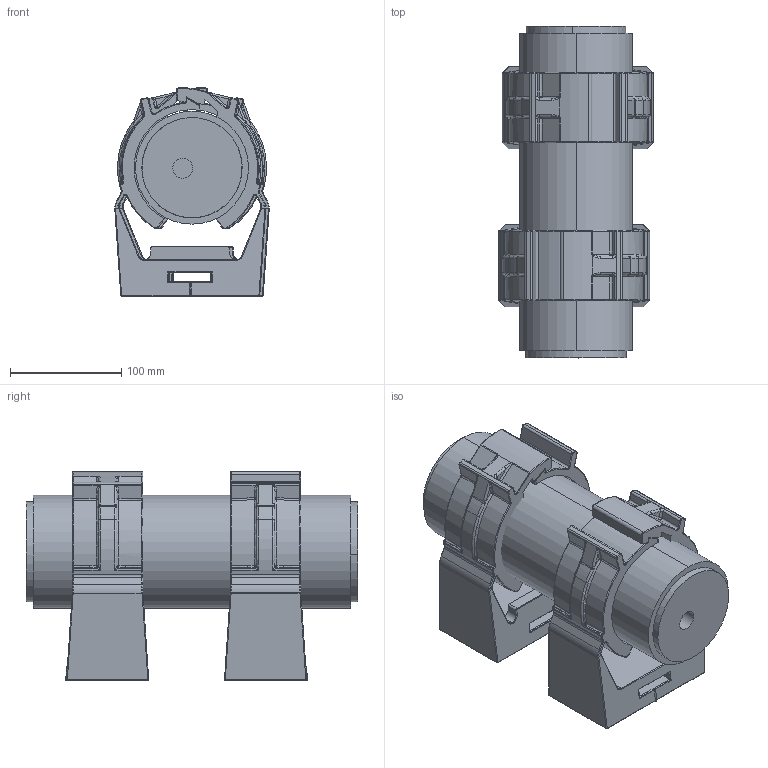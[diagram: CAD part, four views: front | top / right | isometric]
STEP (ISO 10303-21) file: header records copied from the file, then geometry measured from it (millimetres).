
FILE_DESCRIPTION (( 'STEP AP203' ), '1' );
FILE_NAME ('190799.STEP', '2019-09-12T17:44:32', ( '' ), ( '' ), 'SwSTEP 2.0', 'SolidWorks 2019', '' );
FILE_SCHEMA (( 'CONFIG_CONTROL_DESIGN' ));
Length unit declared in the file: inch
Products named in the file (5): 102688; 190821_Default<As Machined>; 102687; 102593_1st; 190799
Assembly tree (5 placements, depth 2):
  190799
    102688
    190821_Default<As Machined>
    102687
    102593_1st  x2
Bounding box: 138.96 x 298.45 x 187.64 mm (x, y, z)
Volume: 1664832.7 mm3; surface area: 456443.2 mm2
Topology: 5 solids, 5 shells, 1598 faces, 4080 edges, 2488 vertices
Faces by surface type: plane 724, cylinder 366, bspline 264, torus 188, sphere 48, cone 8
Entity records: 28729 total; most frequent: CARTESIAN_POINT 9825, ORIENTED_EDGE 4072, DIRECTION 3628, EDGE_CURVE 2036, AXIS2_PLACEMENT_3D 1309, VERTEX_POINT 1258, VECTOR 1010, LINE 1010
